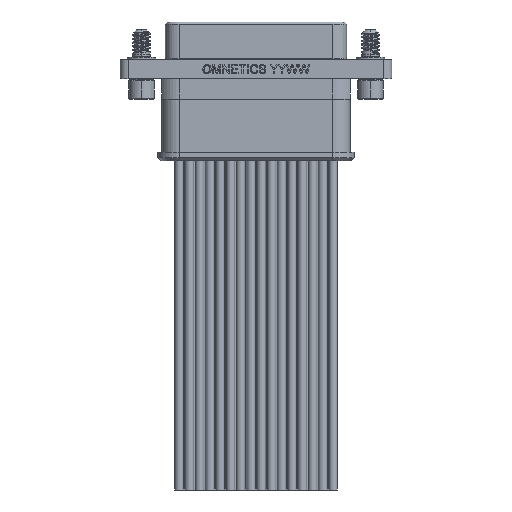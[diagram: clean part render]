
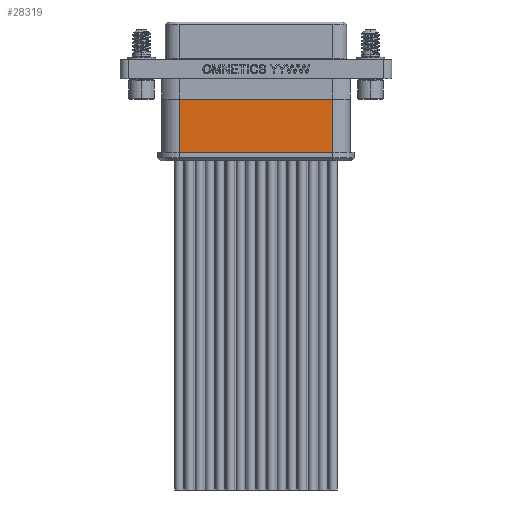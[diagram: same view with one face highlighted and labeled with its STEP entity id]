
A CAD part, front view. The second image highlights one B-rep face of the part: STEP entity #28319.
In plain terms, the highlighted planar face has unit normal (0, -1, 0).
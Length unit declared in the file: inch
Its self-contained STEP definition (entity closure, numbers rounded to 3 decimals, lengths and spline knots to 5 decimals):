
#525 = ORIENTED_EDGE ( 'NONE', *, *, #3761, .T. ) ;
#765 = CARTESIAN_POINT ( 'NONE',  ( 0.3735, -0.104, -0.151 ) ) ;
#861 = VECTOR ( 'NONE', #17865, 39.37008 ) ;
#1858 = DIRECTION ( 'NONE',  ( 0., 1., 0. ) ) ;
#3761 = EDGE_CURVE ( 'NONE', #24187, #17467, #4361, .T. ) ;
#3879 = VERTEX_POINT ( 'NONE', #23538 ) ;
#3979 = CARTESIAN_POINT ( 'NONE',  ( 0.3735, -0.104, -0.411 ) ) ;
#4361 = LINE ( 'NONE', #22622, #20592 ) ;
#4566 = EDGE_CURVE ( 'NONE', #22545, #3879, #25255, .T. ) ;
#4970 = DIRECTION ( 'NONE',  ( -1., 0., 0. ) ) ;
#5142 = CARTESIAN_POINT ( 'NONE',  ( -0.3735, -0.104, -0.411 ) ) ;
#6132 = VECTOR ( 'NONE', #15512, 39.37008 ) ;
#6399 = PLANE ( 'NONE',  #13669 ) ;
#6434 = EDGE_CURVE ( 'NONE', #24187, #22545, #17932, .T. ) ;
#6792 = CARTESIAN_POINT ( 'NONE',  ( 0.3735, -0.104, -0.411 ) ) ;
#13229 = CARTESIAN_POINT ( 'NONE',  ( -0.3735, -0.104, -0.151 ) ) ;
#13669 = AXIS2_PLACEMENT_3D ( 'NONE', #6792, #1858, #22724 ) ;
#15512 = DIRECTION ( 'NONE',  ( 0., 0., 1. ) ) ;
#15850 = ORIENTED_EDGE ( 'NONE', *, *, #6434, .F. ) ;
#16751 = EDGE_LOOP ( 'NONE', ( #525, #25881, #19169, #15850 ) ) ;
#17227 = VECTOR ( 'NONE', #4970, 39.37008 ) ;
#17467 = VERTEX_POINT ( 'NONE', #765 ) ;
#17865 = DIRECTION ( 'NONE',  ( 1., 0., 0. ) ) ;
#17932 = LINE ( 'NONE', #21117, #17227 ) ;
#18001 = DIRECTION ( 'NONE',  ( 0., 0., 1. ) ) ;
#19169 = ORIENTED_EDGE ( 'NONE', *, *, #4566, .F. ) ;
#20356 = LINE ( 'NONE', #13229, #861 ) ;
#20592 = VECTOR ( 'NONE', #18001, 39.37008 ) ;
#21117 = CARTESIAN_POINT ( 'NONE',  ( 0.3735, -0.104, -0.411 ) ) ;
#22134 = FACE_OUTER_BOUND ( 'NONE', #16751, .T. ) ;
#22545 = VERTEX_POINT ( 'NONE', #5142 ) ;
#22622 = CARTESIAN_POINT ( 'NONE',  ( 0.3735, -0.104, -0.411 ) ) ;
#22724 = DIRECTION ( 'NONE',  ( -1., 0., 0. ) ) ;
#23538 = CARTESIAN_POINT ( 'NONE',  ( -0.3735, -0.104, -0.151 ) ) ;
#24187 = VERTEX_POINT ( 'NONE', #3979 ) ;
#25255 = LINE ( 'NONE', #29330, #6132 ) ;
#25881 = ORIENTED_EDGE ( 'NONE', *, *, #27332, .F. ) ;
#27332 = EDGE_CURVE ( 'NONE', #3879, #17467, #20356, .T. ) ;
#28319 = ADVANCED_FACE ( 'NONE', ( #22134 ), #6399, .F. ) ;
#29330 = CARTESIAN_POINT ( 'NONE',  ( -0.3735, -0.104, -0.411 ) ) ;
